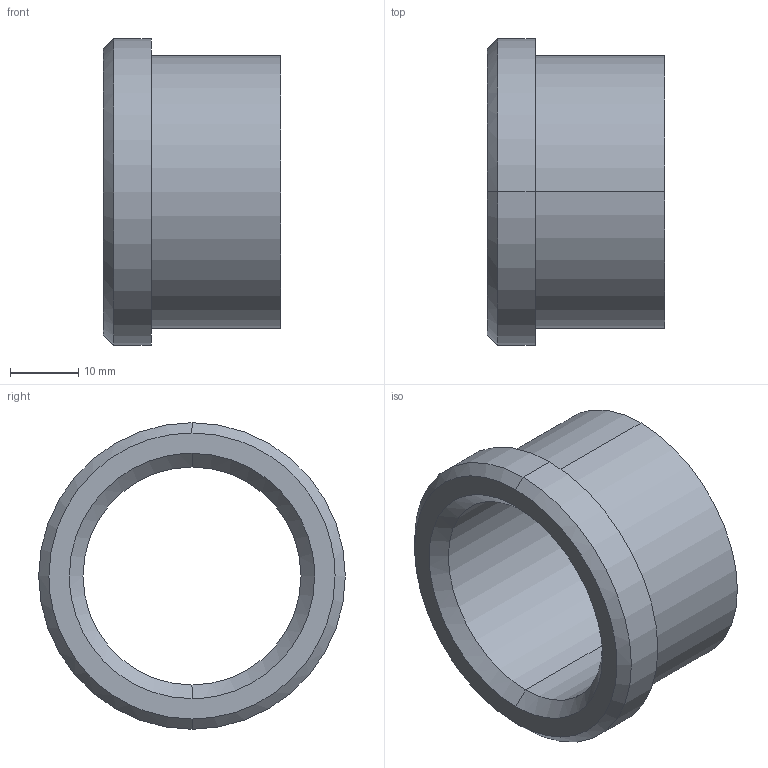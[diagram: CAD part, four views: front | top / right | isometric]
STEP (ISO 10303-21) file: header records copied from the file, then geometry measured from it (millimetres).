
FILE_DESCRIPTION(('CATIA V5 STEP Exchange'),'2;1');
FILE_NAME('C:\Users\Utente\Desktop\IO LAVORO\3D X SITO CF\X SITO\PLASTICA\353\353-32X26.stp','2021-05-12T18:58:44+00:00',('none'),('none'),'CATIA Version 5 Release 20 GA (IN-10)','CATIA V5 STEP AP203','none');
FILE_SCHEMA(('CONFIG_CONTROL_DESIGN'));
Length unit declared in the file: millimetre
Products named in the file (1): 353-32X26
Bounding box: 26 x 45 x 45 mm (x, y, z)
Volume: 13645 mm3; surface area: 7239.1 mm2
Topology: 1 solids, 1 shells, 15 faces, 48 edges, 36 vertices
Faces by surface type: cylinder 6, cone 4, plane 3, torus 2
Entity records: 680 total; most frequent: CARTESIAN_POINT 212, ORIENTED_EDGE 96, DIRECTION 70, EDGE_CURVE 48, AXIS2_PLACEMENT_3D 46, VERTEX_POINT 36, CIRCLE 30, EDGE_LOOP 18
